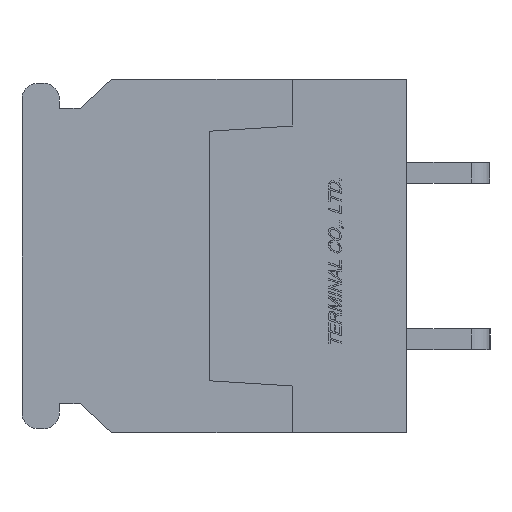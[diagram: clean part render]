
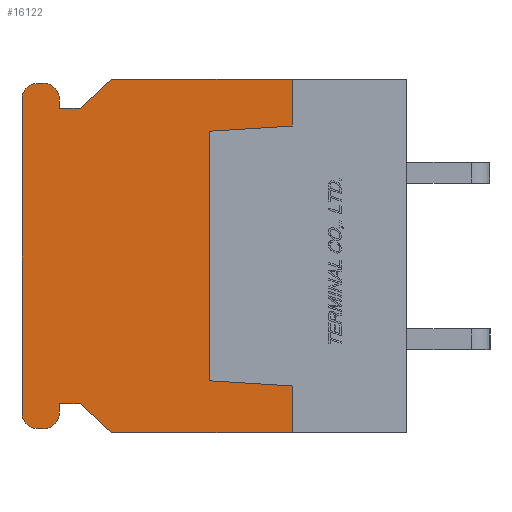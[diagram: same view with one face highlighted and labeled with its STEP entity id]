
A CAD part, left-side view. The second image highlights one B-rep face of the part: STEP entity #16122.
In plain terms, the highlighted planar face has unit normal (-1, 0, 0).
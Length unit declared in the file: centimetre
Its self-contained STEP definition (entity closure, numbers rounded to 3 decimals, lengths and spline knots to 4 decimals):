
#959=CIRCLE('',#27537,0.075);
#960=CIRCLE('',#27538,0.075);
#961=CIRCLE('',#27539,0.075);
#962=CIRCLE('',#27540,0.075);
#1969=VERTEX_POINT('',#24175);
#1970=VERTEX_POINT('',#24177);
#1971=VERTEX_POINT('',#24181);
#1972=VERTEX_POINT('',#24185);
#1973=VERTEX_POINT('',#24189);
#1974=VERTEX_POINT('',#24193);
#2020=VERTEX_POINT('',#24289);
#2064=VERTEX_POINT('',#24407);
#2209=VERTEX_POINT('',#24905);
#2210=VERTEX_POINT('',#24907);
#2211=VERTEX_POINT('',#24909);
#2212=VERTEX_POINT('',#24911);
#2213=VERTEX_POINT('',#24913);
#2214=VERTEX_POINT('',#24915);
#2215=VERTEX_POINT('',#24917);
#2216=VERTEX_POINT('',#24919);
#2217=VERTEX_POINT('',#24921);
#2218=VERTEX_POINT('',#24923);
#2219=VERTEX_POINT('',#24925);
#2220=VERTEX_POINT('',#24927);
#3594=VECTOR('',#19235,1.);
#3597=VECTOR('',#19239,1.);
#3599=VECTOR('',#19242,1.);
#3601=VECTOR('',#19245,1.);
#3603=VECTOR('',#19248,1.);
#3646=VECTOR('',#19301,1.);
#3703=VECTOR('',#19384,1.);
#3914=VECTOR('',#19796,1.);
#3915=VECTOR('',#19797,1.);
#3916=VECTOR('',#19798,1.);
#3917=VECTOR('',#19801,1.);
#3918=VECTOR('',#19804,1.);
#3919=VECTOR('',#19807,1.);
#3920=VECTOR('',#19810,1.);
#3921=VECTOR('',#19811,1.);
#3922=VECTOR('',#19812,1.);
#5380=LINE('',#24176,#3594);
#5383=LINE('',#24182,#3597);
#5385=LINE('',#24186,#3599);
#5387=LINE('',#24190,#3601);
#5389=LINE('',#24194,#3603);
#5432=LINE('',#24288,#3646);
#5489=LINE('',#24408,#3703);
#5700=LINE('',#24904,#3914);
#5701=LINE('',#24906,#3915);
#5702=LINE('',#24908,#3916);
#5703=LINE('',#24912,#3917);
#5704=LINE('',#24916,#3918);
#5705=LINE('',#24920,#3919);
#5706=LINE('',#24924,#3920);
#5707=LINE('',#24926,#3921);
#5708=LINE('',#24928,#3922);
#7632=EDGE_CURVE('',#1970,#1969,#5380,.T.);
#7635=EDGE_CURVE('',#1969,#1971,#5383,.T.);
#7637=EDGE_CURVE('',#1971,#1972,#5385,.T.);
#7639=EDGE_CURVE('',#1972,#1973,#5387,.T.);
#7641=EDGE_CURVE('',#1973,#1974,#5389,.T.);
#7688=EDGE_CURVE('',#1970,#2020,#5432,.T.);
#7749=EDGE_CURVE('',#2064,#1974,#5489,.T.);
#8000=EDGE_CURVE('',#2209,#2064,#5700,.T.);
#8001=EDGE_CURVE('',#2210,#2209,#5701,.T.);
#8002=EDGE_CURVE('',#2211,#2210,#5702,.T.);
#8003=EDGE_CURVE('',#2212,#2211,#959,.T.);
#8004=EDGE_CURVE('',#2213,#2212,#5703,.T.);
#8005=EDGE_CURVE('',#2214,#2213,#960,.T.);
#8006=EDGE_CURVE('',#2215,#2214,#5704,.T.);
#8007=EDGE_CURVE('',#2216,#2215,#961,.T.);
#8008=EDGE_CURVE('',#2217,#2216,#5705,.T.);
#8009=EDGE_CURVE('',#2218,#2217,#962,.T.);
#8010=EDGE_CURVE('',#2219,#2218,#5706,.T.);
#8011=EDGE_CURVE('',#2220,#2219,#5707,.T.);
#8012=EDGE_CURVE('',#2020,#2220,#5708,.T.);
#12219=ORIENTED_EDGE('',*,*,#7641,.T.);
#12220=ORIENTED_EDGE('',*,*,#7749,.F.);
#12221=ORIENTED_EDGE('',*,*,#8000,.F.);
#12222=ORIENTED_EDGE('',*,*,#8001,.F.);
#12223=ORIENTED_EDGE('',*,*,#8002,.F.);
#12224=ORIENTED_EDGE('',*,*,#8003,.F.);
#12225=ORIENTED_EDGE('',*,*,#8004,.F.);
#12226=ORIENTED_EDGE('',*,*,#8005,.F.);
#12227=ORIENTED_EDGE('',*,*,#8006,.F.);
#12228=ORIENTED_EDGE('',*,*,#8007,.F.);
#12229=ORIENTED_EDGE('',*,*,#8008,.F.);
#12230=ORIENTED_EDGE('',*,*,#8009,.F.);
#12231=ORIENTED_EDGE('',*,*,#8010,.F.);
#12232=ORIENTED_EDGE('',*,*,#8011,.F.);
#12233=ORIENTED_EDGE('',*,*,#8012,.F.);
#12234=ORIENTED_EDGE('',*,*,#7688,.F.);
#12235=ORIENTED_EDGE('',*,*,#7632,.T.);
#12236=ORIENTED_EDGE('',*,*,#7635,.T.);
#12237=ORIENTED_EDGE('',*,*,#7637,.T.);
#12238=ORIENTED_EDGE('',*,*,#7639,.T.);
#14192=EDGE_LOOP('',(#12219,#12220,#12221,#12222,#12223,#12224,#12225,#12226,
#12227,#12228,#12229,#12230,#12231,#12232,#12233,#12234,#12235,#12236,#12237,
#12238));
#15202=FACE_BOUND('',#14192,.T.);
#16122=ADVANCED_FACE('',(#15202),#16842,.F.);
#16842=PLANE('',#27536);
#19235=DIRECTION('',(0.,0.,1.));
#19239=DIRECTION('',(0.,0.998,0.062));
#19242=DIRECTION('',(0.,0.,1.));
#19245=DIRECTION('',(0.,-0.998,0.062));
#19248=DIRECTION('',(0.,0.,1.));
#19301=DIRECTION('',(0.,1.,0.));
#19384=DIRECTION('',(0.,-1.,0.));
#19795=DIRECTION('',(1.,0.,0.));
#19796=DIRECTION('',(0.,-0.731,0.682));
#19797=DIRECTION('',(0.,-1.,0.));
#19798=DIRECTION('',(0.,0.,-1.));
#19799=DIRECTION('',(1.,0.,0.));
#19800=DIRECTION('',(0.,0.,-0.075));
#19801=DIRECTION('',(0.,-1.,0.));
#19802=DIRECTION('',(1.,0.,0.));
#19803=DIRECTION('',(0.,0.,-0.075));
#19804=DIRECTION('',(0.,0.,1.));
#19805=DIRECTION('',(1.,0.,0.));
#19806=DIRECTION('',(0.,0.,-0.075));
#19807=DIRECTION('',(0.,1.,0.));
#19808=DIRECTION('',(1.,0.,0.));
#19809=DIRECTION('',(0.,0.,-0.075));
#19810=DIRECTION('',(0.,0.,-1.));
#19811=DIRECTION('',(0.,1.,0.));
#19812=DIRECTION('',(0.,0.731,0.682));
#24175=CARTESIAN_POINT('',(-1.,0.55,-0.625));
#24176=CARTESIAN_POINT('',(-1.,0.55,-0.3687));
#24177=CARTESIAN_POINT('',(-1.,0.55,-0.85));
#24181=CARTESIAN_POINT('',(-1.,0.95,-0.6));
#24182=CARTESIAN_POINT('',(-1.,0.8629,-0.6054));
#24185=CARTESIAN_POINT('',(-1.,0.95,0.6));
#24186=CARTESIAN_POINT('',(-1.,0.95,0.));
#24189=CARTESIAN_POINT('',(-1.,0.55,0.625));
#24190=CARTESIAN_POINT('',(-1.,0.8629,0.6054));
#24193=CARTESIAN_POINT('',(-1.,0.55,0.85));
#24194=CARTESIAN_POINT('',(-1.,0.55,0.3687));
#24288=CARTESIAN_POINT('',(-1.,0.,-0.85));
#24289=CARTESIAN_POINT('',(-1.,1.42,-0.85));
#24407=CARTESIAN_POINT('',(-1.,1.42,0.85));
#24408=CARTESIAN_POINT('',(-1.,1.42,0.85));
#24903=CARTESIAN_POINT('',(-1.,0.9383,0.));
#24904=CARTESIAN_POINT('',(-1.,1.57,0.71));
#24905=CARTESIAN_POINT('',(-1.,1.57,0.71));
#24906=CARTESIAN_POINT('',(-1.,1.67,0.71));
#24907=CARTESIAN_POINT('',(-1.,1.67,0.71));
#24908=CARTESIAN_POINT('',(-1.,1.67,0.755));
#24909=CARTESIAN_POINT('',(-1.,1.67,0.755));
#24910=CARTESIAN_POINT('',(-1.,1.745,0.755));
#24911=CARTESIAN_POINT('',(-1.,1.745,0.83));
#24912=CARTESIAN_POINT('',(-1.,1.775,0.83));
#24913=CARTESIAN_POINT('',(-1.,1.775,0.83));
#24914=CARTESIAN_POINT('',(-1.,1.775,0.755));
#24915=CARTESIAN_POINT('',(-1.,1.85,0.755));
#24916=CARTESIAN_POINT('',(-1.,1.85,-0.755));
#24917=CARTESIAN_POINT('',(-1.,1.85,-0.755));
#24918=CARTESIAN_POINT('',(-1.,1.775,-0.755));
#24919=CARTESIAN_POINT('',(-1.,1.775,-0.83));
#24920=CARTESIAN_POINT('',(-1.,1.745,-0.83));
#24921=CARTESIAN_POINT('',(-1.,1.745,-0.83));
#24922=CARTESIAN_POINT('',(-1.,1.745,-0.755));
#24923=CARTESIAN_POINT('',(-1.,1.67,-0.755));
#24924=CARTESIAN_POINT('',(-1.,1.67,-0.71));
#24925=CARTESIAN_POINT('',(-1.,1.67,-0.71));
#24926=CARTESIAN_POINT('',(-1.,1.57,-0.71));
#24927=CARTESIAN_POINT('',(-1.,1.57,-0.71));
#24928=CARTESIAN_POINT('',(-1.,1.42,-0.85));
#27536=AXIS2_PLACEMENT_3D('',#24903,#19795,$);
#27537=AXIS2_PLACEMENT_3D('',#24910,#19799,#19800);
#27538=AXIS2_PLACEMENT_3D('',#24914,#19802,#19803);
#27539=AXIS2_PLACEMENT_3D('',#24918,#19805,#19806);
#27540=AXIS2_PLACEMENT_3D('',#24922,#19808,#19809);
